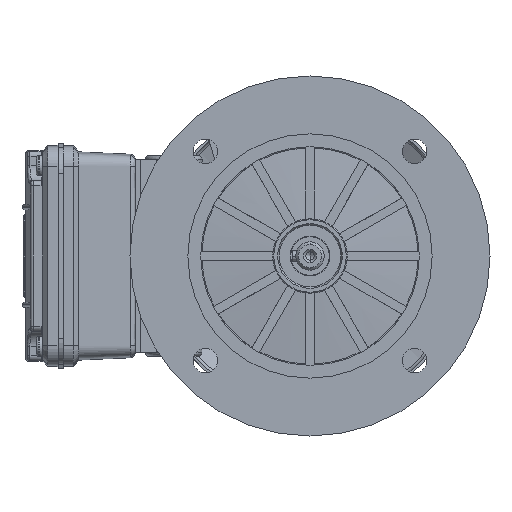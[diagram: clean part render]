
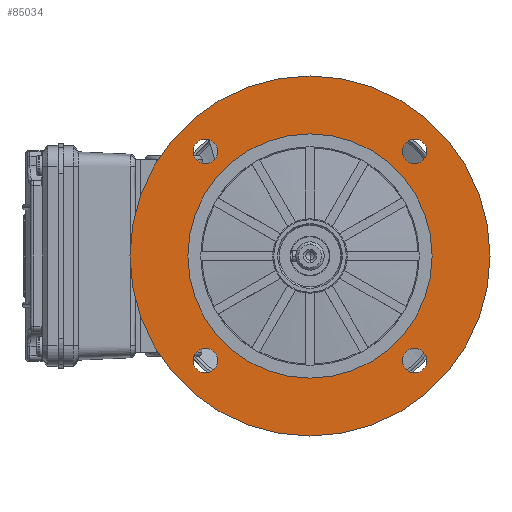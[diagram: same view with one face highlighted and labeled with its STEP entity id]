
A CAD part, left-side view. The second image highlights one B-rep face of the part: STEP entity #85034.
In plain terms, the highlighted planar face has unit normal (-1, 0, 0) as drawn and (0, -1, 0) by its records, which use the part's own axes.
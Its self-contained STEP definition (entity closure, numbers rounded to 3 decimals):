
#618 = VERTEX_POINT ( 'NONE', #25072 ) ;
#3792 = CARTESIAN_POINT ( 'NONE',  ( 0., 3., 0. ) ) ;
#5670 = CIRCLE ( 'NONE', #86275, 4.75 ) ;
#7879 = EDGE_LOOP ( 'NONE', ( #83654, #74062 ) ) ;
#8511 = VERTEX_POINT ( 'NONE', #37260 ) ;
#8523 = ORIENTED_EDGE ( 'NONE', *, *, #58908, .F. ) ;
#8543 = CIRCLE ( 'NONE', #57851, 4.75 ) ;
#8632 = VERTEX_POINT ( 'NONE', #93131 ) ;
#10806 = CIRCLE ( 'NONE', #13522, 47.5 ) ;
#11326 = AXIS2_PLACEMENT_3D ( 'NONE', #12123, #21192, #84166 ) ;
#12123 = CARTESIAN_POINT ( 'NONE',  ( 70., 3., 0. ) ) ;
#12820 = DIRECTION ( 'NONE',  ( 0., 0., -1. ) ) ;
#12966 = CIRCLE ( 'NONE', #34974, 4.75 ) ;
#13522 = AXIS2_PLACEMENT_3D ( 'NONE', #86727, #32807, #95780 ) ;
#14304 = CARTESIAN_POINT ( 'NONE',  ( 40.659, 3., -40.659 ) ) ;
#15915 = CIRCLE ( 'NONE', #73177, 70. ) ;
#17490 = CARTESIAN_POINT ( 'NONE',  ( -40.659, 3., 40.659 ) ) ;
#17493 = EDGE_CURVE ( 'NONE', #114753, #100070, #29127, .T. ) ;
#20269 = ORIENTED_EDGE ( 'NONE', *, *, #17493, .F. ) ;
#20633 = EDGE_LOOP ( 'NONE', ( #78142, #93180 ) ) ;
#21192 = DIRECTION ( 'NONE',  ( 0., -1., 0. ) ) ;
#21347 = VERTEX_POINT ( 'NONE', #67311 ) ;
#23331 = CARTESIAN_POINT ( 'NONE',  ( 40.659, 3., 40.659 ) ) ;
#23337 = DIRECTION ( 'NONE',  ( 0., 0., -1. ) ) ;
#24095 = AXIS2_PLACEMENT_3D ( 'NONE', #52362, #115366, #61394 ) ;
#24172 = CARTESIAN_POINT ( 'NONE',  ( -40.659, 3., -40.659 ) ) ;
#25072 = CARTESIAN_POINT ( 'NONE',  ( 40.659, 3., 35.909 ) ) ;
#26539 = DIRECTION ( 'NONE',  ( 0., 0., -1. ) ) ;
#29127 = CIRCLE ( 'NONE', #31627, 47.5 ) ;
#29597 = FACE_BOUND ( 'NONE', #36290, .T. ) ;
#31627 = AXIS2_PLACEMENT_3D ( 'NONE', #3792, #66739, #12820 ) ;
#32404 = DIRECTION ( 'NONE',  ( 0., 0., -1. ) ) ;
#32807 = DIRECTION ( 'NONE',  ( 0., -1., 0. ) ) ;
#33236 = DIRECTION ( 'NONE',  ( 0., 0., -1. ) ) ;
#33258 = CARTESIAN_POINT ( 'NONE',  ( 40.659, 3., 40.659 ) ) ;
#33865 = CARTESIAN_POINT ( 'NONE',  ( -40.659, 3., 40.659 ) ) ;
#34187 = VERTEX_POINT ( 'NONE', #90444 ) ;
#34974 = AXIS2_PLACEMENT_3D ( 'NONE', #14304, #77243, #23337 ) ;
#36200 = DIRECTION ( 'NONE',  ( 0., -1., 0. ) ) ;
#36290 = EDGE_LOOP ( 'NONE', ( #44850, #92378 ) ) ;
#36633 = CARTESIAN_POINT ( 'NONE',  ( -40.659, 3., 35.909 ) ) ;
#36881 = CARTESIAN_POINT ( 'NONE',  ( -40.659, 3., -40.659 ) ) ;
#37260 = CARTESIAN_POINT ( 'NONE',  ( -40.659, 3., -35.909 ) ) ;
#40323 = CIRCLE ( 'NONE', #95757, 4.75 ) ;
#42317 = DIRECTION ( 'NONE',  ( 0., 0., -1. ) ) ;
#42919 = DIRECTION ( 'NONE',  ( 0., 0., -1. ) ) ;
#42983 = EDGE_CURVE ( 'NONE', #101572, #8632, #81480, .T. ) ;
#43915 = ORIENTED_EDGE ( 'NONE', *, *, #68679, .F. ) ;
#44365 = CIRCLE ( 'NONE', #96131, 4.75 ) ;
#44438 = DIRECTION ( 'NONE',  ( 0., -1., 0. ) ) ;
#44666 = CARTESIAN_POINT ( 'NONE',  ( 0., 3., -47.5 ) ) ;
#44850 = ORIENTED_EDGE ( 'NONE', *, *, #49206, .F. ) ;
#45094 = FACE_BOUND ( 'NONE', #87748, .T. ) ;
#45842 = EDGE_CURVE ( 'NONE', #618, #21347, #88483, .T. ) ;
#45932 = DIRECTION ( 'NONE',  ( 0., 0., -1. ) ) ;
#48214 = CIRCLE ( 'NONE', #50636, 4.75 ) ;
#49206 = EDGE_CURVE ( 'NONE', #8511, #86625, #44365, .T. ) ;
#50636 = AXIS2_PLACEMENT_3D ( 'NONE', #17490, #80412, #26539 ) ;
#50720 = FACE_BOUND ( 'NONE', #88389, .T. ) ;
#52362 = CARTESIAN_POINT ( 'NONE',  ( 0., 3., 0. ) ) ;
#55305 = VERTEX_POINT ( 'NONE', #64795 ) ;
#55651 = EDGE_CURVE ( 'NONE', #55305, #86345, #48214, .T. ) ;
#57190 = CARTESIAN_POINT ( 'NONE',  ( 0., 3., -70. ) ) ;
#57851 = AXIS2_PLACEMENT_3D ( 'NONE', #24172, #87144, #33236 ) ;
#58235 = AXIS2_PLACEMENT_3D ( 'NONE', #23331, #86301, #32404 ) ;
#58908 = EDGE_CURVE ( 'NONE', #86345, #55305, #60285, .T. ) ;
#60285 = CIRCLE ( 'NONE', #78020, 4.75 ) ;
#61394 = DIRECTION ( 'NONE',  ( 0., 0., -1. ) ) ;
#64795 = CARTESIAN_POINT ( 'NONE',  ( -40.659, 3., 45.409 ) ) ;
#66739 = DIRECTION ( 'NONE',  ( 0., -1., 0. ) ) ;
#67311 = CARTESIAN_POINT ( 'NONE',  ( 40.659, 3., 45.409 ) ) ;
#68679 = EDGE_CURVE ( 'NONE', #34187, #91398, #12966, .T. ) ;
#68911 = CARTESIAN_POINT ( 'NONE',  ( 0., 3., 47.5 ) ) ;
#68967 = FACE_OUTER_BOUND ( 'NONE', #20633, .T. ) ;
#71798 = FACE_BOUND ( 'NONE', #81803, .T. ) ;
#73177 = AXIS2_PLACEMENT_3D ( 'NONE', #98335, #44438, #107420 ) ;
#74062 = ORIENTED_EDGE ( 'NONE', *, *, #45842, .F. ) ;
#77243 = DIRECTION ( 'NONE',  ( 0., -1., 0. ) ) ;
#78020 = AXIS2_PLACEMENT_3D ( 'NONE', #33865, #96825, #42919 ) ;
#78142 = ORIENTED_EDGE ( 'NONE', *, *, #42983, .T. ) ;
#80412 = DIRECTION ( 'NONE',  ( 0., -1., 0. ) ) ;
#81480 = CIRCLE ( 'NONE', #24095, 70. ) ;
#81803 = EDGE_LOOP ( 'NONE', ( #109997, #8523 ) ) ;
#83654 = ORIENTED_EDGE ( 'NONE', *, *, #99884, .F. ) ;
#84166 = DIRECTION ( 'NONE',  ( 0., 0., -1. ) ) ;
#85034 = ADVANCED_FACE ( 'NONE', ( #50720, #29597, #71798, #92993, #68967, #45094 ), #101508, .T. ) ;
#86275 = AXIS2_PLACEMENT_3D ( 'NONE', #90130, #36200, #99151 ) ;
#86301 = DIRECTION ( 'NONE',  ( 0., -1., 0. ) ) ;
#86345 = VERTEX_POINT ( 'NONE', #36633 ) ;
#86625 = VERTEX_POINT ( 'NONE', #112988 ) ;
#86727 = CARTESIAN_POINT ( 'NONE',  ( 0., 3., 0. ) ) ;
#87144 = DIRECTION ( 'NONE',  ( 0., -1., 0. ) ) ;
#87748 = EDGE_LOOP ( 'NONE', ( #94634, #20269 ) ) ;
#88389 = EDGE_LOOP ( 'NONE', ( #43915, #95140 ) ) ;
#88483 = CIRCLE ( 'NONE', #58235, 4.75 ) ;
#90130 = CARTESIAN_POINT ( 'NONE',  ( 40.659, 3., -40.659 ) ) ;
#90444 = CARTESIAN_POINT ( 'NONE',  ( 40.659, 3., -35.909 ) ) ;
#91398 = VERTEX_POINT ( 'NONE', #101458 ) ;
#92378 = ORIENTED_EDGE ( 'NONE', *, *, #106459, .F. ) ;
#92993 = FACE_BOUND ( 'NONE', #7879, .T. ) ;
#93131 = CARTESIAN_POINT ( 'NONE',  ( 0., 3., 70. ) ) ;
#93180 = ORIENTED_EDGE ( 'NONE', *, *, #109969, .T. ) ;
#94634 = ORIENTED_EDGE ( 'NONE', *, *, #99250, .F. ) ;
#95140 = ORIENTED_EDGE ( 'NONE', *, *, #113560, .F. ) ;
#95757 = AXIS2_PLACEMENT_3D ( 'NONE', #33258, #96214, #42317 ) ;
#95780 = DIRECTION ( 'NONE',  ( 0., 0., -1. ) ) ;
#96131 = AXIS2_PLACEMENT_3D ( 'NONE', #36881, #99833, #45932 ) ;
#96214 = DIRECTION ( 'NONE',  ( 0., -1., 0. ) ) ;
#96825 = DIRECTION ( 'NONE',  ( 0., -1., 0. ) ) ;
#98335 = CARTESIAN_POINT ( 'NONE',  ( 0., 3., 0. ) ) ;
#99151 = DIRECTION ( 'NONE',  ( 0., 0., -1. ) ) ;
#99250 = EDGE_CURVE ( 'NONE', #100070, #114753, #10806, .T. ) ;
#99833 = DIRECTION ( 'NONE',  ( 0., -1., 0. ) ) ;
#99884 = EDGE_CURVE ( 'NONE', #21347, #618, #40323, .T. ) ;
#100070 = VERTEX_POINT ( 'NONE', #44666 ) ;
#101458 = CARTESIAN_POINT ( 'NONE',  ( 40.659, 3., -45.409 ) ) ;
#101508 = PLANE ( 'NONE',  #11326 ) ;
#101572 = VERTEX_POINT ( 'NONE', #57190 ) ;
#106459 = EDGE_CURVE ( 'NONE', #86625, #8511, #8543, .T. ) ;
#107420 = DIRECTION ( 'NONE',  ( 0., 0., -1. ) ) ;
#109969 = EDGE_CURVE ( 'NONE', #8632, #101572, #15915, .T. ) ;
#109997 = ORIENTED_EDGE ( 'NONE', *, *, #55651, .F. ) ;
#112988 = CARTESIAN_POINT ( 'NONE',  ( -40.659, 3., -45.409 ) ) ;
#113560 = EDGE_CURVE ( 'NONE', #91398, #34187, #5670, .T. ) ;
#114753 = VERTEX_POINT ( 'NONE', #68911 ) ;
#115366 = DIRECTION ( 'NONE',  ( 0., -1., 0. ) ) ;
